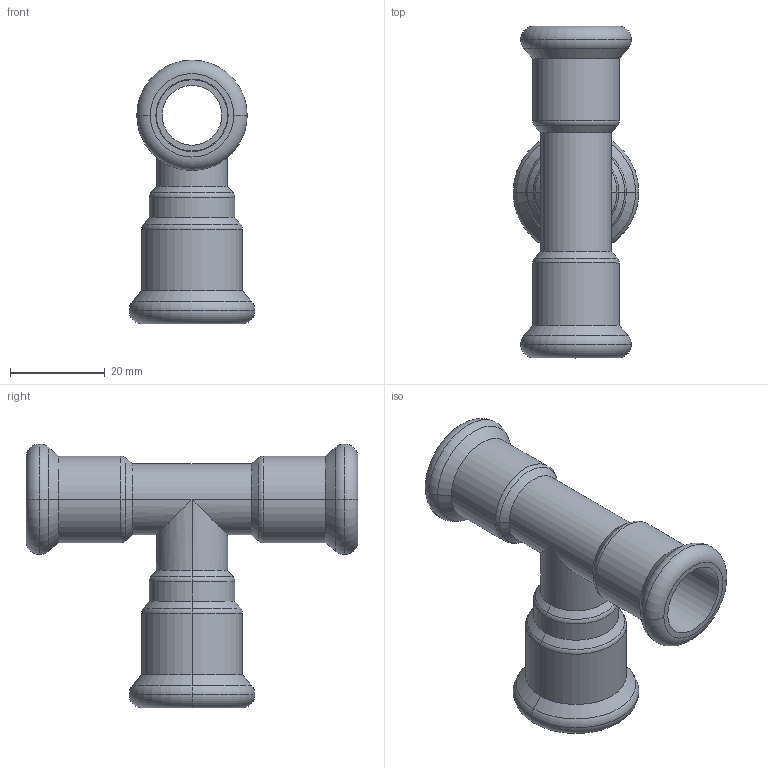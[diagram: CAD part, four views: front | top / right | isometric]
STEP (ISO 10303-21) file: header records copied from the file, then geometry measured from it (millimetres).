
FILE_DESCRIPTION(('CoCreate Modeling STEP Export'),'2;1');
FILE_NAME('C1415 15x18x15.stp','2014-11-11T17:02:06',(''),(''),'CoCreate Modeling STEP processor for AP214 (Solid Model)','CoCreate Modeling 17.00A 17-Jun-2010 (C) Parametric Technology GmbH','');
FILE_SCHEMA(('AUTOMOTIVE_DESIGN { 1 0 10303 214 1 1 1 1 }'));
Length unit declared in the file: millimetre
Products named in the file (2): C1415_15x18x15
Assembly tree (1 placements, depth 2):
  C1415_15x18x15
    C1415_15x18x15
Bounding box: 26.5 x 70 x 55.65 mm (x, y, z)
Volume: 10467 mm3; surface area: 12420.5 mm2
Topology: 1 solids, 1 shells, 77 faces, 157 edges, 89 vertices
Faces by surface type: cylinder 32, torus 20, cone 16, plane 9
Entity records: 2221 total; most frequent: CARTESIAN_POINT 811, ORIENTED_EDGE 314, DIRECTION 254, EDGE_CURVE 157, AXIS2_PLACEMENT_3D 104, VERTEX_POINT 89, EDGE_LOOP 86, FACE_OUTER_BOUND 77
